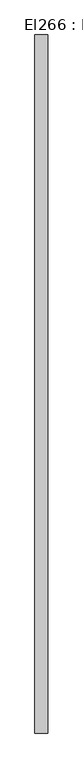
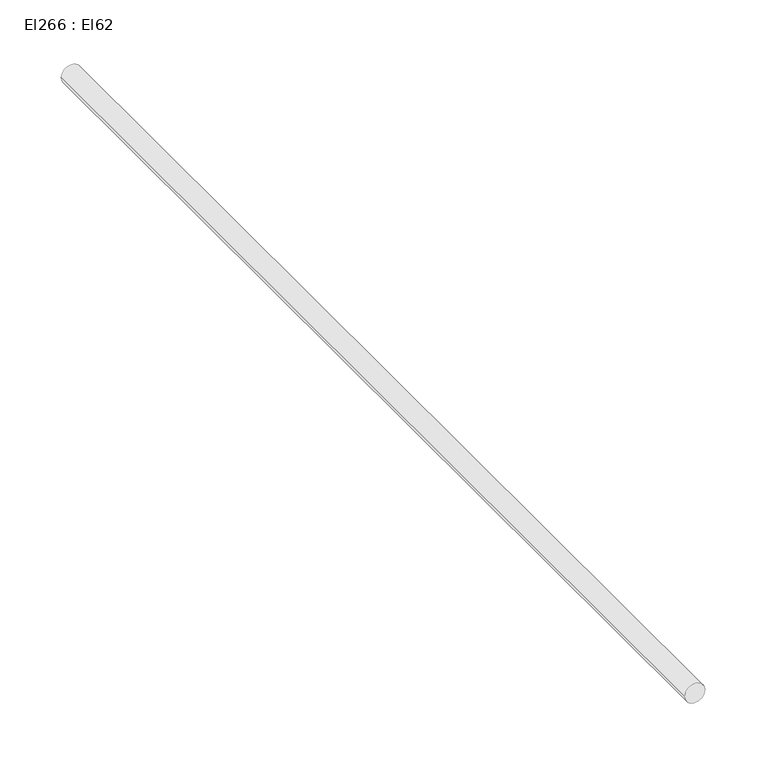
"""IFC4 building model written with IfcOpenShell, lengths in millimetres: cable carrier segment geometry, El266 : El62."""

from ifc_helpers import new_model, si_unit, point, frame, frame_2d, origin, place, context, project, spatial, circle_curve, trimmed, segment, composite_curve, outline, extrude, source, transform, mapped, element, save


def el266_el62_c5358e1e(model_context):
    return source(origin(), model_context, "Body", "SweptSolid", [
        extrude(outline(composite_curve([segment(trimmed(circle_curve(frame_2d((2700.0, 11764.4746511)), 9.5), [point((2700.0, 11754.9746511))], [point((2700.0, 11773.9746511))], False, "CARTESIAN"), True, "CONTINUOUS"), segment(trimmed(circle_curve(frame_2d((2700.0, 11764.4746511)), 9.5), [point((2700.0, 11773.9746511))], [point((2700.0, 11754.9746511))], False, "CARTESIAN"), True, "CONTINUOUS")], self_intersect=False)), frame((0.0, 9416.8741745, 0.0), z_axis=(0.0, 1.0, 0.0), x_axis=(0.0, 0.0, 1.0)), (0.0, 0.0, 1.0), 1014.08),
    ])


if __name__ == "__main__":
    model = new_model("IFC4")
    model_context = context("Model", 3, world=origin())
    ifc_project = project(units=[si_unit("LENGTHUNIT", "METRE", prefix="MILLI")], contexts=[model_context])
    site = spatial("IfcSite", under=ifc_project)
    building = spatial("IfcBuilding", under=site)
    placement = place(None, origin())
    el266_el62_shape = el266_el62_c5358e1e(model_context)
    element("IfcCableCarrierSegment", 1, ObjectType="El266 : El62", at=placement, inside=building, context=model_context, shape_type="MappedRepresentation", body=[
        mapped(el266_el62_shape, transform((0.0, 0.0, 0.0), x_axis=(1.0, 0.0, 0.0), y_axis=(0.0, 1.0, 0.0), z_axis=(0.0, 0.0, 1.0))),
    ])
    save(model, "model.ifc")
